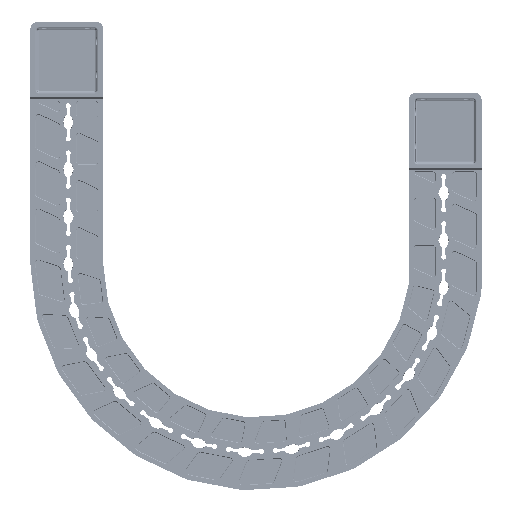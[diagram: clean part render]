
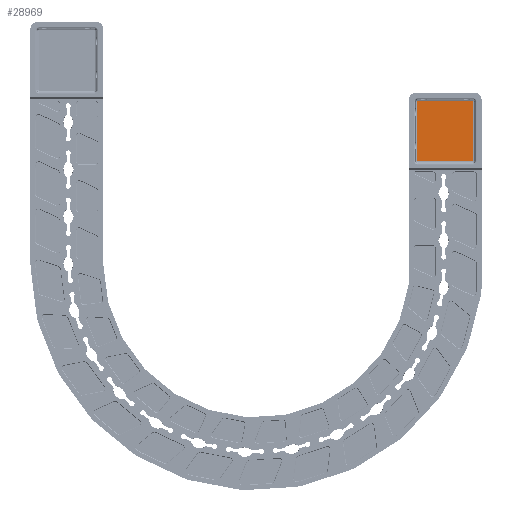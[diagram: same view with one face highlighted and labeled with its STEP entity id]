
A CAD part, front view. The second image highlights one B-rep face of the part: STEP entity #28969.
In plain terms, the highlighted planar face has unit normal (0, -1, 0).
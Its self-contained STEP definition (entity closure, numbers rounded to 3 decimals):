
#25423=DIRECTION('',(0.,0.,-1.));
#25424=VECTOR('',#25423,62.25);
#25425=CARTESIAN_POINT('',(29.526,-51.2,73.5));
#25426=LINE('',#25425,#25424);
#25427=CARTESIAN_POINT('',(29.,-51.2,11.25));
#25428=DIRECTION('',(0.,1.,0.));
#25429=DIRECTION('',(1.,0.,0.));
#25430=AXIS2_PLACEMENT_3D('',#25427,#25428,#25429);
#25432=DIRECTION('',(-1.,0.,0.));
#25433=VECTOR('',#25432,58.);
#25434=CARTESIAN_POINT('',(29.,-51.2,10.724));
#25435=LINE('',#25434,#25433);
#25436=CARTESIAN_POINT('',(-29.,-51.2,11.25));
#25437=DIRECTION('',(0.,1.,0.));
#25438=DIRECTION('',(0.,0.,-1.));
#25439=AXIS2_PLACEMENT_3D('',#25436,#25437,#25438);
#25441=DIRECTION('',(0.,0.,1.));
#25442=VECTOR('',#25441,62.25);
#25443=CARTESIAN_POINT('',(-29.526,-51.2,11.25));
#25444=LINE('',#25443,#25442);
#25445=CARTESIAN_POINT('',(-29.,-51.2,73.5));
#25446=DIRECTION('',(0.,1.,0.));
#25447=DIRECTION('',(-1.,0.,0.));
#25448=AXIS2_PLACEMENT_3D('',#25445,#25446,#25447);
#25450=DIRECTION('',(1.,0.,0.));
#25451=VECTOR('',#25450,58.);
#25452=CARTESIAN_POINT('',(-29.,-51.2,74.026));
#25453=LINE('',#25452,#25451);
#25454=CARTESIAN_POINT('',(29.,-51.2,73.5));
#25455=DIRECTION('',(0.,1.,0.));
#25456=DIRECTION('',(0.,0.,1.));
#25457=AXIS2_PLACEMENT_3D('',#25454,#25455,#25456);
#26659=CARTESIAN_POINT('',(29.526,-51.2,73.5));
#26660=CARTESIAN_POINT('',(29.526,-51.2,11.25));
#26661=VERTEX_POINT('',#26659);
#26662=VERTEX_POINT('',#26660);
#26667=CARTESIAN_POINT('',(29.,-51.2,10.724));
#26668=VERTEX_POINT('',#26667);
#26671=CARTESIAN_POINT('',(-29.,-51.2,10.724));
#26672=VERTEX_POINT('',#26671);
#26675=CARTESIAN_POINT('',(-29.526,-51.2,11.25));
#26676=VERTEX_POINT('',#26675);
#26679=CARTESIAN_POINT('',(-29.526,-51.2,73.5));
#26680=VERTEX_POINT('',#26679);
#26683=CARTESIAN_POINT('',(-29.,-51.2,74.026));
#26684=VERTEX_POINT('',#26683);
#26687=CARTESIAN_POINT('',(29.,-51.2,74.026));
#26688=VERTEX_POINT('',#26687);
#28947=CARTESIAN_POINT('',(38.,-51.2,40.));
#28948=DIRECTION('',(0.,1.,0.));
#28949=DIRECTION('',(0.,0.,1.));
#28950=AXIS2_PLACEMENT_3D('',#28947,#28948,#28949);
#28951=PLANE('',#28950);
#28953=ORIENTED_EDGE('',*,*,#28952,.T.);
#28955=ORIENTED_EDGE('',*,*,#28954,.T.);
#28957=ORIENTED_EDGE('',*,*,#28956,.T.);
#28959=ORIENTED_EDGE('',*,*,#28958,.T.);
#28961=ORIENTED_EDGE('',*,*,#28960,.T.);
#28962=ORIENTED_EDGE('',*,*,#28937,.T.);
#28964=ORIENTED_EDGE('',*,*,#28963,.T.);
#28966=ORIENTED_EDGE('',*,*,#28965,.T.);
#28967=EDGE_LOOP('',(#28953,#28955,#28957,#28959,#28961,#28962,#28964,#28966));
#28968=FACE_OUTER_BOUND('',#28967,.F.);
#28969=ADVANCED_FACE('',(#28968),#28951,.F.);
#25431=CIRCLE('',#25430,0.526);
#25440=CIRCLE('',#25439,0.526);
#25449=CIRCLE('',#25448,0.526);
#25458=CIRCLE('',#25457,0.526);
#28937=EDGE_CURVE('',#26680,#26684,#25449,.T.);
#28952=EDGE_CURVE('',#26661,#26662,#25426,.T.);
#28954=EDGE_CURVE('',#26662,#26668,#25431,.T.);
#28956=EDGE_CURVE('',#26668,#26672,#25435,.T.);
#28958=EDGE_CURVE('',#26672,#26676,#25440,.T.);
#28960=EDGE_CURVE('',#26676,#26680,#25444,.T.);
#28963=EDGE_CURVE('',#26684,#26688,#25453,.T.);
#28965=EDGE_CURVE('',#26688,#26661,#25458,.T.);
